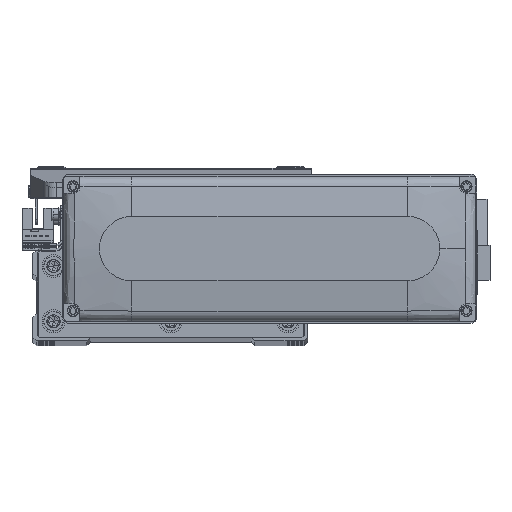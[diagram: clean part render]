
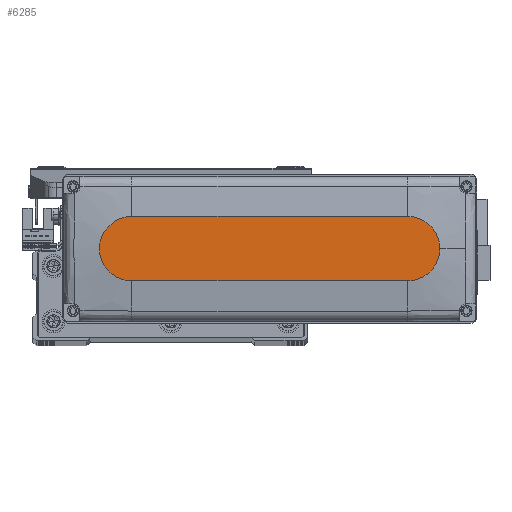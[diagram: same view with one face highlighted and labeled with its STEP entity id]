
A CAD part, top view. The second image highlights one B-rep face of the part: STEP entity #6285.
In plain terms, the highlighted planar face has unit normal (0, 0, 1).
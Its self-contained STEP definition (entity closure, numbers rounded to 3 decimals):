
#583 = AXIS2_PLACEMENT_3D ( 'NONE', #16933, #42862, #29623 ) ;
#914 = VERTEX_POINT ( 'NONE', #45863 ) ;
#1089 = CARTESIAN_POINT ( 'NONE',  ( 60., 0., 28.5 ) ) ;
#1542 = DIRECTION ( 'NONE',  ( 1., 0., 0. ) ) ;
#5220 = DIRECTION ( 'NONE',  ( 0., 0., 1. ) ) ;
#6217 = CARTESIAN_POINT ( 'NONE',  ( -60., -14., 28.5 ) ) ;
#6285 = ADVANCED_FACE ( 'NONE', ( #51705 ), #13118, .T. ) ;
#8710 = DIRECTION ( 'NONE',  ( 1., 0., 0. ) ) ;
#8889 = EDGE_LOOP ( 'NONE', ( #52712, #10302, #9128, #51178, #9428 ) ) ;
#8916 = AXIS2_PLACEMENT_3D ( 'NONE', #1089, #30135, #8710 ) ;
#9128 = ORIENTED_EDGE ( 'NONE', *, *, #12672, .T. ) ;
#9428 = ORIENTED_EDGE ( 'NONE', *, *, #14789, .T. ) ;
#10302 = ORIENTED_EDGE ( 'NONE', *, *, #20073, .T. ) ;
#10484 = DIRECTION ( 'NONE',  ( 0., 0., 1. ) ) ;
#11370 = VECTOR ( 'NONE', #1542, 1000. ) ;
#12672 = EDGE_CURVE ( 'NONE', #33775, #914, #44662, .T. ) ;
#13118 = PLANE ( 'NONE',  #55596 ) ;
#14789 = EDGE_CURVE ( 'NONE', #25724, #34029, #49382, .T. ) ;
#16933 = CARTESIAN_POINT ( 'NONE',  ( 60., 0., 28.5 ) ) ;
#20073 = EDGE_CURVE ( 'NONE', #36475, #33775, #27079, .T. ) ;
#25724 = VERTEX_POINT ( 'NONE', #31534 ) ;
#26177 = CARTESIAN_POINT ( 'NONE',  ( 60., 14., 28.5 ) ) ;
#26912 = CARTESIAN_POINT ( 'NONE',  ( -60., -14., 28.5 ) ) ;
#27079 = CIRCLE ( 'NONE', #34280, 14. ) ;
#28459 = CIRCLE ( 'NONE', #583, 14. ) ;
#29623 = DIRECTION ( 'NONE',  ( 1., 0., 0. ) ) ;
#30135 = DIRECTION ( 'NONE',  ( 0., 0., 1. ) ) ;
#31534 = CARTESIAN_POINT ( 'NONE',  ( 74., 0., 28.5 ) ) ;
#33775 = VERTEX_POINT ( 'NONE', #6217 ) ;
#34029 = VERTEX_POINT ( 'NONE', #26177 ) ;
#34280 = AXIS2_PLACEMENT_3D ( 'NONE', #40351, #10484, #44318 ) ;
#36475 = VERTEX_POINT ( 'NONE', #53674 ) ;
#36559 = DIRECTION ( 'NONE',  ( -1., 0., 0. ) ) ;
#40351 = CARTESIAN_POINT ( 'NONE',  ( -60., 0., 28.5 ) ) ;
#42195 = VECTOR ( 'NONE', #36559, 1000. ) ;
#42862 = DIRECTION ( 'NONE',  ( 0., 0., 1. ) ) ;
#43827 = DIRECTION ( 'NONE',  ( 1., 0., 0. ) ) ;
#44318 = DIRECTION ( 'NONE',  ( 1., 0., 0. ) ) ;
#44662 = LINE ( 'NONE', #26912, #11370 ) ;
#45863 = CARTESIAN_POINT ( 'NONE',  ( 60., -14., 28.5 ) ) ;
#46617 = LINE ( 'NONE', #53731, #42195 ) ;
#49382 = CIRCLE ( 'NONE', #8916, 14. ) ;
#51178 = ORIENTED_EDGE ( 'NONE', *, *, #53055, .T. ) ;
#51705 = FACE_OUTER_BOUND ( 'NONE', #8889, .T. ) ;
#51986 = CARTESIAN_POINT ( 'NONE',  ( 0., 0., 28.5 ) ) ;
#52712 = ORIENTED_EDGE ( 'NONE', *, *, #54997, .T. ) ;
#53055 = EDGE_CURVE ( 'NONE', #914, #25724, #28459, .T. ) ;
#53674 = CARTESIAN_POINT ( 'NONE',  ( -60., 14., 28.5 ) ) ;
#53731 = CARTESIAN_POINT ( 'NONE',  ( -60., 14., 28.5 ) ) ;
#54997 = EDGE_CURVE ( 'NONE', #34029, #36475, #46617, .T. ) ;
#55596 = AXIS2_PLACEMENT_3D ( 'NONE', #51986, #5220, #43827 ) ;
